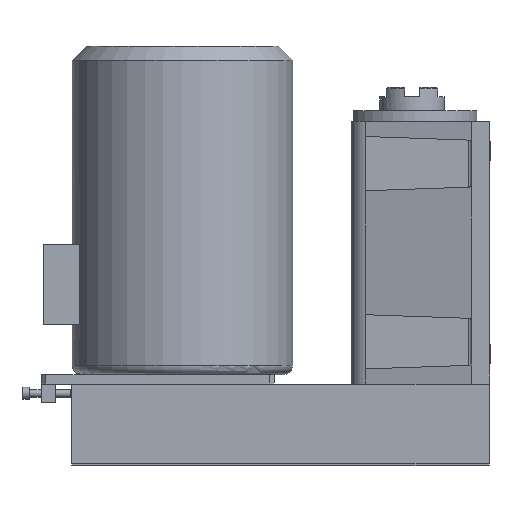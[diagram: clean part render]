
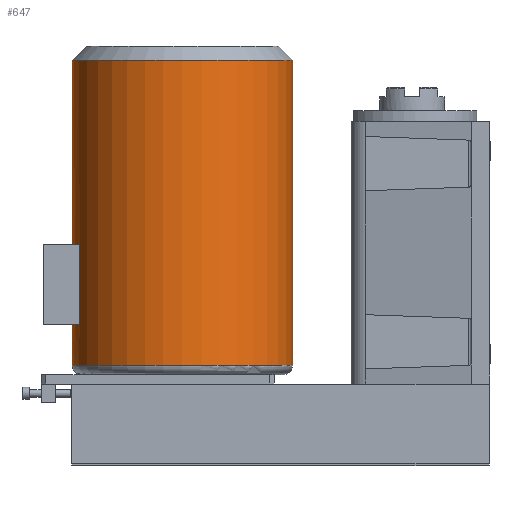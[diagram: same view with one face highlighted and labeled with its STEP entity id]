
A CAD part, left-side view. The second image highlights one B-rep face of the part: STEP entity #647.
In plain terms, the highlighted cylindrical face has radius 117.5 mm (diameter 235 mm), a full revolution.
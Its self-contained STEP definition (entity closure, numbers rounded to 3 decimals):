
#580=CARTESIAN_POINT('',(-117.5,245.,20.0));
#581=VERTEX_POINT('',#580);
#582=CARTESIAN_POINT('',(0.0,245.,20.0));
#583=DIRECTION('',(0.0,0.0,-1.0));
#584=DIRECTION('',(1.0,0.0,0.0));
#585=AXIS2_PLACEMENT_3D('',#582,#583,#584);
#586=CIRCLE('',#585,117.5);
#587=EDGE_CURVE('',#581,#581,#586,.T.);
#592=CARTESIAN_POINT('',(0.0,245.,360.0));
#593=DIRECTION('',(0.0,0.0,-1.0));
#594=DIRECTION('',(1.0,0.0,0.0));
#595=AXIS2_PLACEMENT_3D('',#592,#593,#594);
#596=CYLINDRICAL_SURFACE('',#595,117.5);
#597=CARTESIAN_POINT('',(-117.5,245.,345.0));
#598=VERTEX_POINT('',#597);
#599=CARTESIAN_POINT('',(0.0,245.,345.0));
#600=DIRECTION('',(0.0,0.0,1.0));
#601=DIRECTION('',(1.0,0.0,0.0));
#602=AXIS2_PLACEMENT_3D('',#599,#600,#601);
#603=CIRCLE('',#602,117.5);
#604=EDGE_CURVE('',#598,#598,#603,.T.);
#605=ORIENTED_EDGE('',*,*,#604,.F.);
#606=EDGE_LOOP('',(#605));
#607=FACE_OUTER_BOUND('',#606,.T.);
#608=CARTESIAN_POINT('',(-43.,354.349,149.0));
#609=VERTEX_POINT('',#608);
#610=CARTESIAN_POINT('',(-43.,354.349,63.));
#611=VERTEX_POINT('',#610);
#612=CARTESIAN_POINT('',(-43.,354.349,149.0));
#613=DIRECTION('',(0.0,0.0,-1.0));
#614=VECTOR('',#613,86.0);
#615=LINE('',#612,#614);
#616=EDGE_CURVE('',#609,#611,#615,.T.);
#617=ORIENTED_EDGE('',*,*,#616,.T.);
#618=CARTESIAN_POINT('',(43.0,354.349,63.));
#619=VERTEX_POINT('',#618);
#620=CARTESIAN_POINT('',(0.0,245.,63.));
#621=DIRECTION('',(0.0,0.0,-1.0));
#622=DIRECTION('',(1.0,0.0,0.0));
#623=AXIS2_PLACEMENT_3D('',#620,#621,#622);
#624=CIRCLE('',#623,117.5);
#625=EDGE_CURVE('',#611,#619,#624,.T.);
#626=ORIENTED_EDGE('',*,*,#625,.T.);
#627=CARTESIAN_POINT('',(43.0,354.349,149.0));
#628=VERTEX_POINT('',#627);
#629=CARTESIAN_POINT('',(43.0,354.349,63.));
#630=DIRECTION('',(0.0,0.0,1.0));
#631=VECTOR('',#630,86.0);
#632=LINE('',#629,#631);
#633=EDGE_CURVE('',#619,#628,#632,.T.);
#634=ORIENTED_EDGE('',*,*,#633,.T.);
#635=CARTESIAN_POINT('',(0.0,245.,149.));
#636=DIRECTION('',(0.0,0.0,1.0));
#637=DIRECTION('',(1.0,0.0,0.0));
#638=AXIS2_PLACEMENT_3D('',#635,#636,#637);
#639=CIRCLE('',#638,117.5);
#640=EDGE_CURVE('',#628,#609,#639,.T.);
#641=ORIENTED_EDGE('',*,*,#640,.T.);
#642=EDGE_LOOP('',(#617,#626,#634,#641));
#643=FACE_BOUND('',#642,.T.);
#644=ORIENTED_EDGE('',*,*,#587,.F.);
#645=EDGE_LOOP('',(#644));
#646=FACE_BOUND('',#645,.T.);
#647=ADVANCED_FACE('',(#607,#643,#646),#596,.T.);
